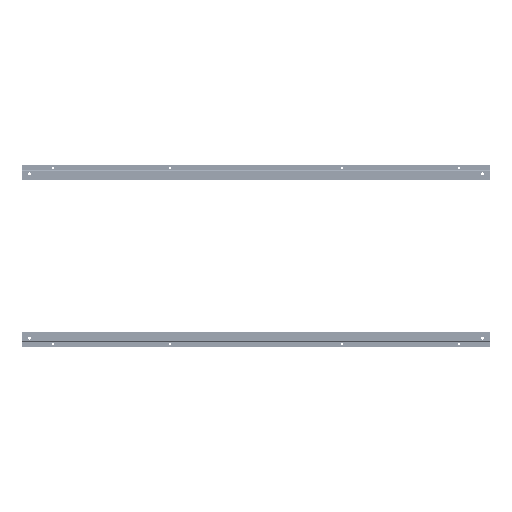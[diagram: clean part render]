
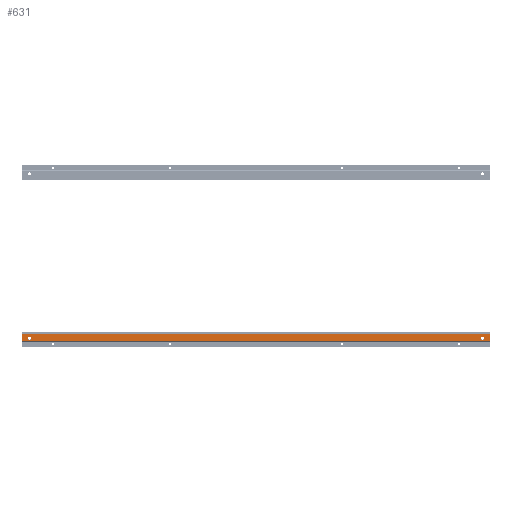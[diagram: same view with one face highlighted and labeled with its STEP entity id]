
A CAD part, left-side view. The second image highlights one B-rep face of the part: STEP entity #631.
In plain terms, the highlighted planar face has unit normal (-1, 0, 0).
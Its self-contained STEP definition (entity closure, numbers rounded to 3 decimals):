
#123 = VERTEX_POINT('',#124);
#124 = CARTESIAN_POINT('',(-31.7,1499.,-7.2));
#139 = VERTEX_POINT('',#140);
#140 = CARTESIAN_POINT('',(-31.7,0.,-7.2));
#146 = EDGE_CURVE('',#139,#123,#147,.T.);
#147 = LINE('',#148,#149);
#148 = CARTESIAN_POINT('',(-31.7,1499.,-7.2));
#149 = VECTOR('',#150,1.);
#150 = DIRECTION('',(0.,1.,0.));
#287 = EDGE_CURVE('',#288,#123,#290,.T.);
#288 = VERTEX_POINT('',#289);
#289 = CARTESIAN_POINT('',(-31.7,1499.,-28.081));
#290 = LINE('',#291,#292);
#291 = CARTESIAN_POINT('',(-31.7,1499.,-28.081));
#292 = VECTOR('',#293,1.);
#293 = DIRECTION('',(0.,0.,1.));
#462 = EDGE_CURVE('',#139,#463,#465,.T.);
#463 = VERTEX_POINT('',#464);
#464 = CARTESIAN_POINT('',(-31.7,0.,-28.081));
#465 = LINE('',#466,#467);
#466 = CARTESIAN_POINT('',(-31.7,0.,-7.2));
#467 = VECTOR('',#468,1.);
#468 = DIRECTION('',(0.,0.,-1.));
#631 = ADVANCED_FACE('',(#632,#643,#654),#665,.F.);
#632 = FACE_BOUND('',#633,.F.);
#633 = EDGE_LOOP('',(#634,#635,#636,#642));
#634 = ORIENTED_EDGE('',*,*,#146,.F.);
#635 = ORIENTED_EDGE('',*,*,#462,.T.);
#636 = ORIENTED_EDGE('',*,*,#637,.T.);
#637 = EDGE_CURVE('',#463,#288,#638,.T.);
#638 = LINE('',#639,#640);
#639 = CARTESIAN_POINT('',(-31.7,1499.,-28.081));
#640 = VECTOR('',#641,1.);
#641 = DIRECTION('',(0.,1.,0.));
#642 = ORIENTED_EDGE('',*,*,#287,.T.);
#643 = FACE_BOUND('',#644,.F.);
#644 = EDGE_LOOP('',(#645));
#645 = ORIENTED_EDGE('',*,*,#646,.F.);
#646 = EDGE_CURVE('',#647,#647,#649,.T.);
#647 = VERTEX_POINT('',#648);
#648 = CARTESIAN_POINT('',(-31.7,1475.,-15.85));
#649 = CIRCLE('',#650,5.);
#650 = AXIS2_PLACEMENT_3D('',#651,#652,#653);
#651 = CARTESIAN_POINT('',(-31.7,1475.,-20.85));
#652 = DIRECTION('',(1.,0.,0.));
#653 = DIRECTION('',(0.,0.,1.));
#654 = FACE_BOUND('',#655,.F.);
#655 = EDGE_LOOP('',(#656));
#656 = ORIENTED_EDGE('',*,*,#657,.F.);
#657 = EDGE_CURVE('',#658,#658,#660,.T.);
#658 = VERTEX_POINT('',#659);
#659 = CARTESIAN_POINT('',(-31.7,24.,-15.85));
#660 = CIRCLE('',#661,5.);
#661 = AXIS2_PLACEMENT_3D('',#662,#663,#664);
#662 = CARTESIAN_POINT('',(-31.7,24.,-20.85));
#663 = DIRECTION('',(1.,0.,-0.));
#664 = DIRECTION('',(0.,0.,1.));
#665 = PLANE('',#666);
#666 = AXIS2_PLACEMENT_3D('',#667,#668,#669);
#667 = CARTESIAN_POINT('',(-31.7,1499.,-7.2));
#668 = DIRECTION('',(1.,-0.,0.));
#669 = DIRECTION('',(0.,0.,-1.));
